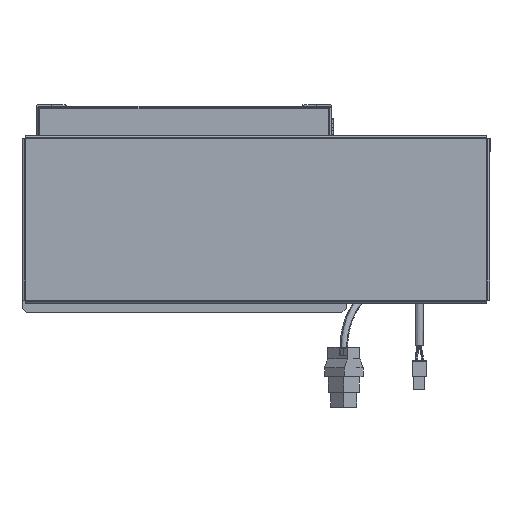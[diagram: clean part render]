
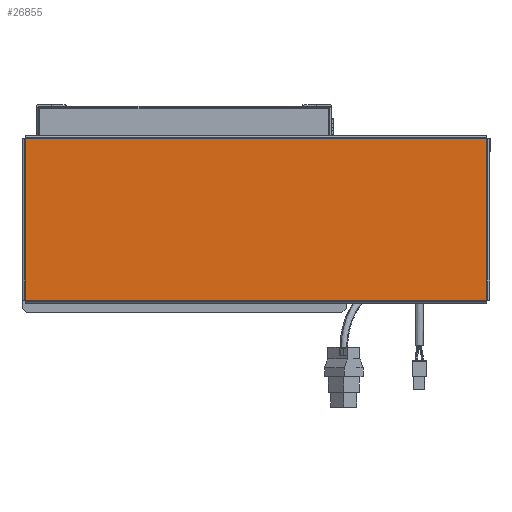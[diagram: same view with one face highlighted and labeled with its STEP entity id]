
A CAD part, top view. The second image highlights one B-rep face of the part: STEP entity #26855.
In plain terms, the highlighted planar face has unit normal (0, 0, 1).
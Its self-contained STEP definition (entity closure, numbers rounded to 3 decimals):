
#411 = CARTESIAN_POINT ( 'NONE',  ( -156.543, -54.763, 0. ) ) ;
#700 = DIRECTION ( 'NONE',  ( 1., 0., 0. ) ) ;
#1935 = EDGE_CURVE ( 'NONE', #16011, #51356, #7717, .T. ) ;
#2081 = EDGE_LOOP ( 'NONE', ( #13646, #22775, #22568, #41119 ) ) ;
#2320 = VERTEX_POINT ( 'NONE', #39288 ) ;
#3818 = VERTEX_POINT ( 'NONE', #14560 ) ;
#5506 = LINE ( 'NONE', #34015, #26306 ) ;
#7717 = LINE ( 'NONE', #16221, #21628 ) ;
#7822 = FACE_OUTER_BOUND ( 'NONE', #2081, .T. ) ;
#10275 = DIRECTION ( 'NONE',  ( 0., -1., 0. ) ) ;
#12888 = DIRECTION ( 'NONE',  ( 0., 0., 1. ) ) ;
#13646 = ORIENTED_EDGE ( 'NONE', *, *, #16311, .T. ) ;
#13817 = CARTESIAN_POINT ( 'NONE',  ( -156.513, 54.793, 0. ) ) ;
#14560 = CARTESIAN_POINT ( 'NONE',  ( 156.513, -54.763, 0. ) ) ;
#15004 = EDGE_CURVE ( 'NONE', #51356, #2320, #28193, .T. ) ;
#15945 = AXIS2_PLACEMENT_3D ( 'NONE', #45038, #12888, #700 ) ;
#16011 = VERTEX_POINT ( 'NONE', #41756 ) ;
#16221 = CARTESIAN_POINT ( 'NONE',  ( 156.543, 54.763, 0. ) ) ;
#16311 = EDGE_CURVE ( 'NONE', #2320, #3818, #20500, .T. ) ;
#16777 = PLANE ( 'NONE',  #15945 ) ;
#20500 = LINE ( 'NONE', #411, #23685 ) ;
#20720 = DIRECTION ( 'NONE',  ( 1., 0., 0. ) ) ;
#21628 = VECTOR ( 'NONE', #32480, 1000. ) ;
#22568 = ORIENTED_EDGE ( 'NONE', *, *, #1935, .T. ) ;
#22626 = CARTESIAN_POINT ( 'NONE',  ( -156.513, 54.763, 0. ) ) ;
#22775 = ORIENTED_EDGE ( 'NONE', *, *, #35890, .T. ) ;
#23685 = VECTOR ( 'NONE', #20720, 1000. ) ;
#26306 = VECTOR ( 'NONE', #33326, 1000. ) ;
#26315 = VECTOR ( 'NONE', #10275, 1000. ) ;
#26855 = ADVANCED_FACE ( 'NONE', ( #7822 ), #16777, .T. ) ;
#28193 = LINE ( 'NONE', #13817, #26315 ) ;
#32480 = DIRECTION ( 'NONE',  ( -1., 0., 0. ) ) ;
#33326 = DIRECTION ( 'NONE',  ( 0., 1., 0. ) ) ;
#34015 = CARTESIAN_POINT ( 'NONE',  ( 156.513, -54.793, 0. ) ) ;
#35890 = EDGE_CURVE ( 'NONE', #3818, #16011, #5506, .T. ) ;
#39288 = CARTESIAN_POINT ( 'NONE',  ( -156.513, -54.763, 0. ) ) ;
#41119 = ORIENTED_EDGE ( 'NONE', *, *, #15004, .T. ) ;
#41756 = CARTESIAN_POINT ( 'NONE',  ( 156.513, 54.763, 0. ) ) ;
#45038 = CARTESIAN_POINT ( 'NONE',  ( 0., 0., 0. ) ) ;
#51356 = VERTEX_POINT ( 'NONE', #22626 ) ;
